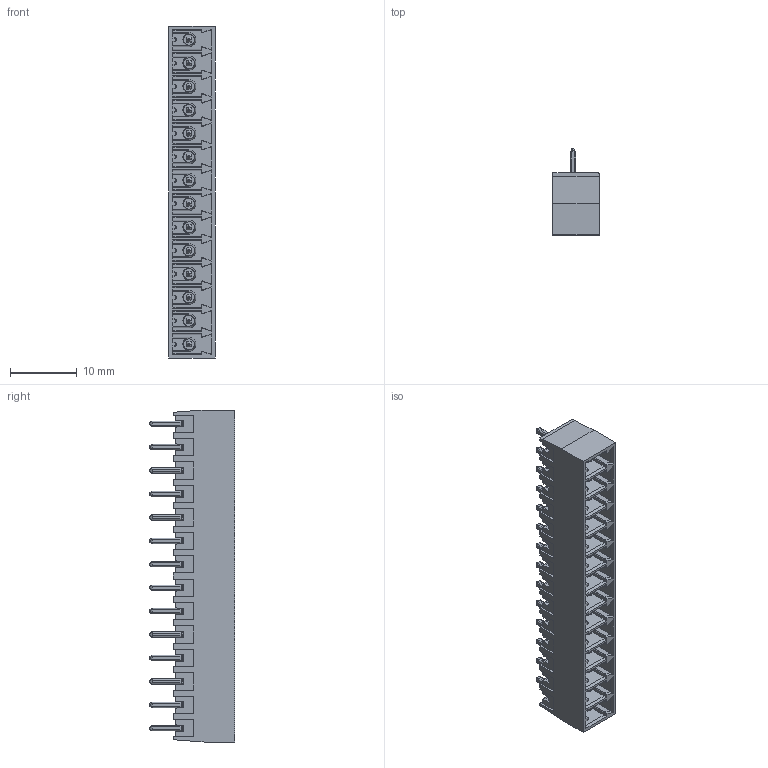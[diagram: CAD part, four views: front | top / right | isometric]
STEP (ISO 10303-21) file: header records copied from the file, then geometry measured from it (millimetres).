
FILE_DESCRIPTION (( 'STEP AP214' ), '1' );
FILE_NAME ('110-M-121-14.STEP', '2007-11-20T05:37:21', ( ' ' ), ( '' ), 'SwSTEP 2.0', 'SolidWorks 2007', '' );
FILE_SCHEMA (( 'AUTOMOTIVE_DESIGN' ));
Products named in the file (1): 110-M-121-14
Bounding box: 6.9 x 12.8 x 49.6 mm (x, y, z)
Volume: 1296.8 mm3; surface area: 4589.8 mm2
Topology: 1 solids, 1 shells, 2283 faces, 7008 edges, 4503 vertices
Faces by surface type: plane 1522, cylinder 677, cone 84
Entity records: 81977 total; most frequent: CARTESIAN_POINT 25645, ORIENTED_EDGE 14016, DIRECTION 8462, EDGE_CURVE 7008, VERTEX_POINT 4503, VECTOR 3666, LINE 3666, B_SPLINE_CURVE_WITH_KNOTS 3228
